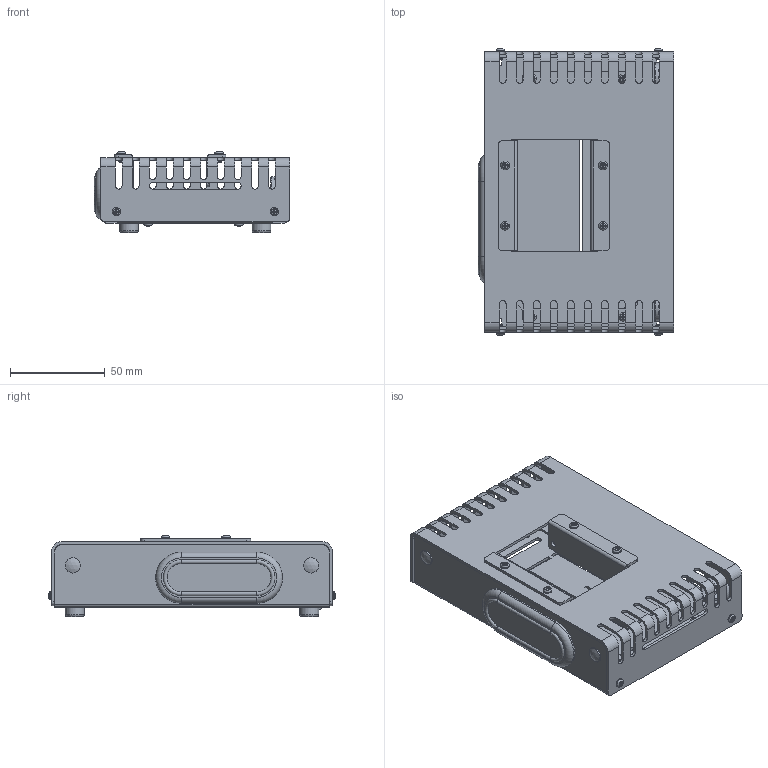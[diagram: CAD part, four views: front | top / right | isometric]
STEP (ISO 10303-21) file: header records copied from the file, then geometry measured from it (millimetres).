
FILE_DESCRIPTION(/* description */ (''),/* implementation_level */ '2;1');
FILE_NAME(/* name */ 'Open Step ND-273.step',/* time_stamp */ '2020-08-03T15:03:50+09:00',/* author */ (''),/* organization */ (''),/* preprocessor_version */ 'ST-DEVELOPER v18.1',/* originating_system */ 'Autodesk Translation Framework v9.3.0.1241',/* authorisation */ '');
FILE_SCHEMA (('AUTOMOTIVE_DESIGN { 1 0 10303 214 3 1 1 }'));
Length unit declared in the file: millimetre
Products named in the file (11): Open Step ND-273; C-30-RK-10-black; ASB-2606.5E; ND-273 カバー; ND-273 ヒートシンクブラケット; M2_6-4 Pan Head Screw; C-30-SG-20-60A-EP-UL; ND-273 基板ユニット取付板; CP-30-HP-7; CP-30-HP-1; ND-273 シャーシ
Assembly tree (39 placements, depth 2):
  Open Step ND-273
    C-30-RK-10-black  x4
    M2_6-4 Pan Head Screw  x20
    ASB-2606.5E  x4
    ND-273 カバー
    ND-273 ヒートシンクブラケット  x2
    C-30-SG-20-60A-EP-UL
    ND-273 基板ユニット取付板  x2
    CP-30-HP-7  x2
    CP-30-HP-1  x2
    ND-273 シャーシ
Bounding box: 103.5 x 151.57 x 42.84 mm (x, y, z)
Volume: 68479.7 mm3; surface area: 99833.1 mm2
Topology: 39 solids, 39 shells, 1100 faces, 3002 edges, 1936 vertices
Faces by surface type: plane 651, cylinder 307, bspline 48, cone 36, torus 34, sphere 24
Full cylindrical faces by diameter (mm): 2.075 x4, 2.175 x19, 2.6 x20, 3 x12, 3.3 x4, 3.4 x2, 3.5 x4, 4.5 x20, 5 x4, 6.1 x2, 6.5 x2, 8 x2, 10 x4, 12.8 x2, 15.7 x2, 16.1 x2, 18.2 x2
Entity records: 18395 total; most frequent: CARTESIAN_POINT 3584, ORIENTED_EDGE 3044, DIRECTION 3026, EDGE_CURVE 1522, LINE 1018, VECTOR 1018, AXIS2_PLACEMENT_3D 1004, VERTEX_POINT 1002
